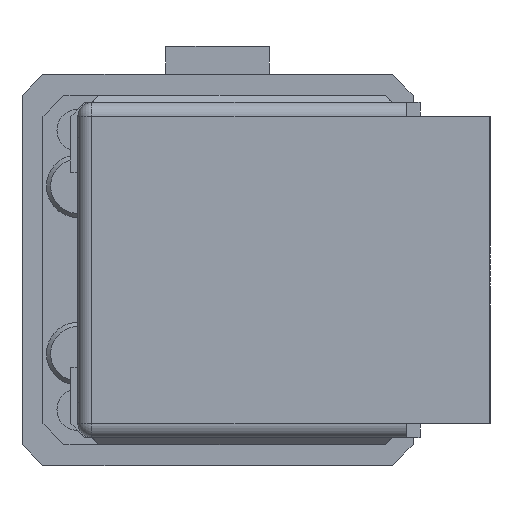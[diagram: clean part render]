
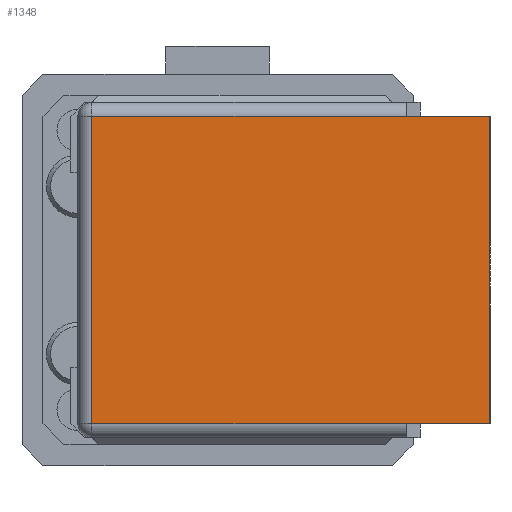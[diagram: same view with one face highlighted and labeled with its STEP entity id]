
A CAD part, left-side view. The second image highlights one B-rep face of the part: STEP entity #1348.
In plain terms, the highlighted planar face has unit normal (-1, 0, 0).
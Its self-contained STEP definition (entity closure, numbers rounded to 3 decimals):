
#11 = DIRECTION ( 'NONE',  ( 0., 0., 1. ) ) ;
#149 = EDGE_CURVE ( 'NONE', #2048, #5780, #5083, .T. ) ;
#327 = VECTOR ( 'NONE', #1533, 1000. ) ;
#343 = ORIENTED_EDGE ( 'NONE', *, *, #5527, .T. ) ;
#369 = EDGE_CURVE ( 'NONE', #2048, #6428, #6942, .T. ) ;
#503 = EDGE_CURVE ( 'NONE', #4418, #7714, #1294, .T. ) ;
#537 = VECTOR ( 'NONE', #3630, 1000. ) ;
#838 = CARTESIAN_POINT ( 'NONE',  ( 0., 0., 11. ) ) ;
#1177 = LINE ( 'NONE', #6773, #5514 ) ;
#1220 = CARTESIAN_POINT ( 'NONE',  ( 0., 28.5, -11. ) ) ;
#1251 = CARTESIAN_POINT ( 'NONE',  ( 0., 6., 11. ) ) ;
#1294 = LINE ( 'NONE', #7057, #6011 ) ;
#1348 = ADVANCED_FACE ( 'NONE', ( #1479 ), #2290, .F. ) ;
#1479 = FACE_OUTER_BOUND ( 'NONE', #4896, .T. ) ;
#1533 = DIRECTION ( 'NONE',  ( 0., -1., 0. ) ) ;
#1556 = CARTESIAN_POINT ( 'NONE',  ( 0., 6., 11. ) ) ;
#1842 = VECTOR ( 'NONE', #2063, 1000. ) ;
#1858 = CARTESIAN_POINT ( 'NONE',  ( 0., 6., -11. ) ) ;
#2048 = VERTEX_POINT ( 'NONE', #1251 ) ;
#2063 = DIRECTION ( 'NONE',  ( 0., -1., 0. ) ) ;
#2076 = ORIENTED_EDGE ( 'NONE', *, *, #503, .T. ) ;
#2118 = ORIENTED_EDGE ( 'NONE', *, *, #4003, .T. ) ;
#2290 = PLANE ( 'NONE',  #6822 ) ;
#2376 = LINE ( 'NONE', #6667, #537 ) ;
#2591 = DIRECTION ( 'NONE',  ( 0., 0., -1. ) ) ;
#2751 = EDGE_CURVE ( 'NONE', #7714, #5780, #1177, .T. ) ;
#3355 = ORIENTED_EDGE ( 'NONE', *, *, #369, .T. ) ;
#3391 = ORIENTED_EDGE ( 'NONE', *, *, #149, .F. ) ;
#3630 = DIRECTION ( 'NONE',  ( 0., 0., -1. ) ) ;
#3929 = CARTESIAN_POINT ( 'NONE',  ( 0., 6., -11. ) ) ;
#4003 = EDGE_CURVE ( 'NONE', #7337, #4418, #4567, .T. ) ;
#4418 = VERTEX_POINT ( 'NONE', #1858 ) ;
#4567 = LINE ( 'NONE', #3929, #1842 ) ;
#4812 = DIRECTION ( 'NONE',  ( 1., 0., 0. ) ) ;
#4896 = EDGE_LOOP ( 'NONE', ( #343, #2118, #2076, #7610, #3391, #3355 ) ) ;
#5083 = LINE ( 'NONE', #1556, #327 ) ;
#5171 = VECTOR ( 'NONE', #5308, 1000. ) ;
#5281 = CARTESIAN_POINT ( 'NONE',  ( 0., 6., 11. ) ) ;
#5308 = DIRECTION ( 'NONE',  ( 0., 1., 0. ) ) ;
#5514 = VECTOR ( 'NONE', #11, 1000. ) ;
#5527 = EDGE_CURVE ( 'NONE', #6428, #7337, #2376, .T. ) ;
#5780 = VERTEX_POINT ( 'NONE', #838 ) ;
#5782 = CARTESIAN_POINT ( 'NONE',  ( 0., 28.5, 11. ) ) ;
#5950 = CARTESIAN_POINT ( 'NONE',  ( 0., 0., -11. ) ) ;
#6011 = VECTOR ( 'NONE', #7084, 1000. ) ;
#6428 = VERTEX_POINT ( 'NONE', #5782 ) ;
#6667 = CARTESIAN_POINT ( 'NONE',  ( 0., 28.5, 11. ) ) ;
#6773 = CARTESIAN_POINT ( 'NONE',  ( 0., 0., 11. ) ) ;
#6822 = AXIS2_PLACEMENT_3D ( 'NONE', #6999, #4812, #2591 ) ;
#6942 = LINE ( 'NONE', #5281, #5171 ) ;
#6999 = CARTESIAN_POINT ( 'NONE',  ( 0., 6., 11. ) ) ;
#7057 = CARTESIAN_POINT ( 'NONE',  ( 0., 6., -11. ) ) ;
#7084 = DIRECTION ( 'NONE',  ( 0., -1., 0. ) ) ;
#7337 = VERTEX_POINT ( 'NONE', #1220 ) ;
#7610 = ORIENTED_EDGE ( 'NONE', *, *, #2751, .T. ) ;
#7714 = VERTEX_POINT ( 'NONE', #5950 ) ;
